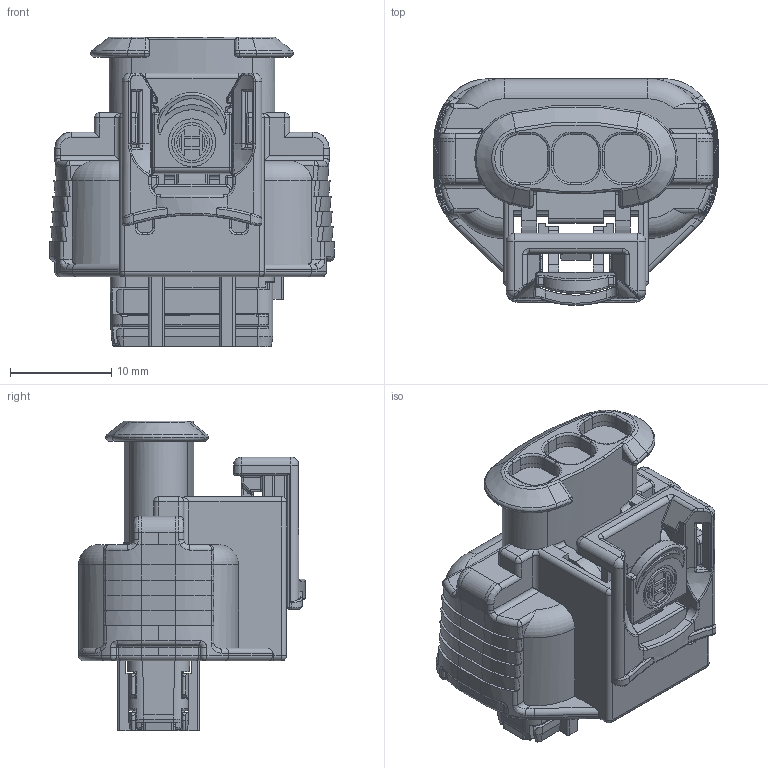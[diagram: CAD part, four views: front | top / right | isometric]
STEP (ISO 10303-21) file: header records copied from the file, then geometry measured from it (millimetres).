
FILE_DESCRIPTION(/* description */ (''),/* implementation_level */ '2;1');
FILE_NAME(/* name */ 'KOM4-3S-2.step',/* time_stamp */ '2025-07-23T02:51:37-05:00',/* author */ (''),/* organization */ ('Corsa Technic, LLC'),/* preprocessor_version */ 'ST-DEVELOPER v20.1',/* originating_system */ 'Autodesk Translation Framework v14.10.0.0',/* authorisation */ '3D design STEP models are provided for reference only. STEP models DO NOT provide accurate tolerance information and the model may not be constructed to the nominal nor the manufacturing-optimized version of the design. User assumes all risks from use of these models. Corsa Technic, LLC makes no representation or warranty (expressed or implied) with respect to the STEP models, including but not limited to the accuracy or completeness of product dimensions or any other technical specifications contained in or accompanying the STEP models, non-infringement of third party rights, and quality, suitability, fitness for purpose or title.');
FILE_SCHEMA (('AUTOMOTIVE_DESIGN { 1 0 10303 214 3 1 1 }'));
Products named in the file (1): 1928a00517_00_001
Bounding box: 28.1 x 22.4 x 30.6 mm (x, y, z)
Volume: 6506 mm3; surface area: 7026.5 mm2
Topology: 3 solids, 3 shells, 1996 faces, 5237 edges, 3147 vertices
Faces by surface type: plane 827, cylinder 636, bspline 216, torus 192, sphere 68, cone 57
Full cylindrical faces by diameter (mm): 3.5 x1, 4 x1, 4.7 x1
Entity records: 85356 total; most frequent: CARTESIAN_POINT 37091, ORIENTED_EDGE 10356, DIRECTION 9903, EDGE_CURVE 5178, AXIS2_PLACEMENT_3D 3454, VERTEX_POINT 3163, LINE 2995, VECTOR 2995
